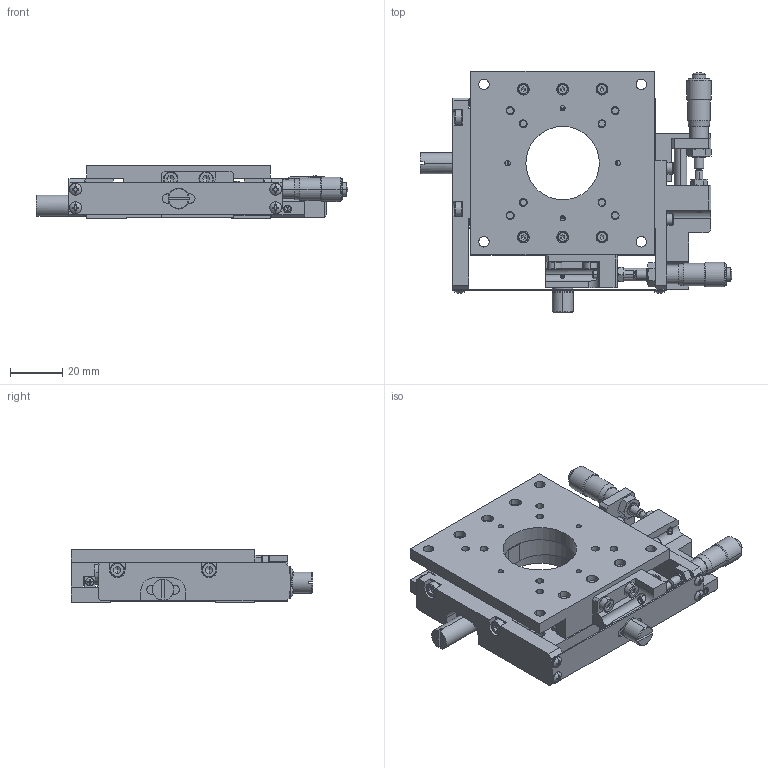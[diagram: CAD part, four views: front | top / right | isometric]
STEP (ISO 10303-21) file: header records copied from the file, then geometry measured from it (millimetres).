
FILE_DESCRIPTION (( 'STEP AP203' ), '1' );
FILE_NAME ('YM07A-S1W.STEP', '2009-12-08T09:14:06', ( ' ' ), ( ' ' ), 'SwSTEP 2.0', 'SolidWorks 2009', '' );
FILE_SCHEMA (( 'CONFIG_CONTROL_DESIGN' ));
Products named in the file (7): DP001071-1030-00-Part-1; DP001071-1010-00-Part-1; DP001071-1010-00; YM07A-S1W; DP001071-1020-00; DP001071-1020-00-Part-1; DP001071-1030-00
Assembly tree (6 placements, depth 3):
  YM07A-S1W
    DP001071-1030-00
      DP001071-1030-00-Part-1
    DP001071-1010-00
      DP001071-1010-00-Part-1
    DP001071-1020-00
      DP001071-1020-00-Part-1
Bounding box: 118.8 x 92 x 20 mm (x, y, z)
Volume: 90446.9 mm3; surface area: 58376.9 mm2
Topology: 3 solids, 80 shells, 2732 faces, 6351 edges, 3790 vertices
Faces by surface type: plane 1379, cylinder 748, cone 541, sphere 48, torus 16
Entity records: 78080 total; most frequent: DIRECTION 14175, CARTESIAN_POINT 13919, ORIENTED_EDGE 12410, EDGE_CURVE 6205, AXIS2_PLACEMENT_3D 5356, VERTEX_POINT 3790, VECTOR 3463, LINE 3463
